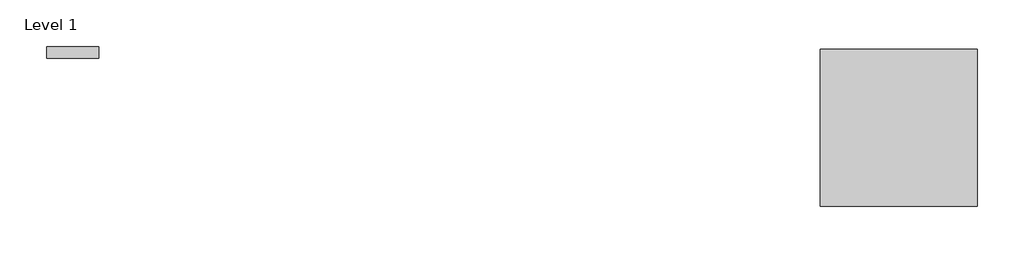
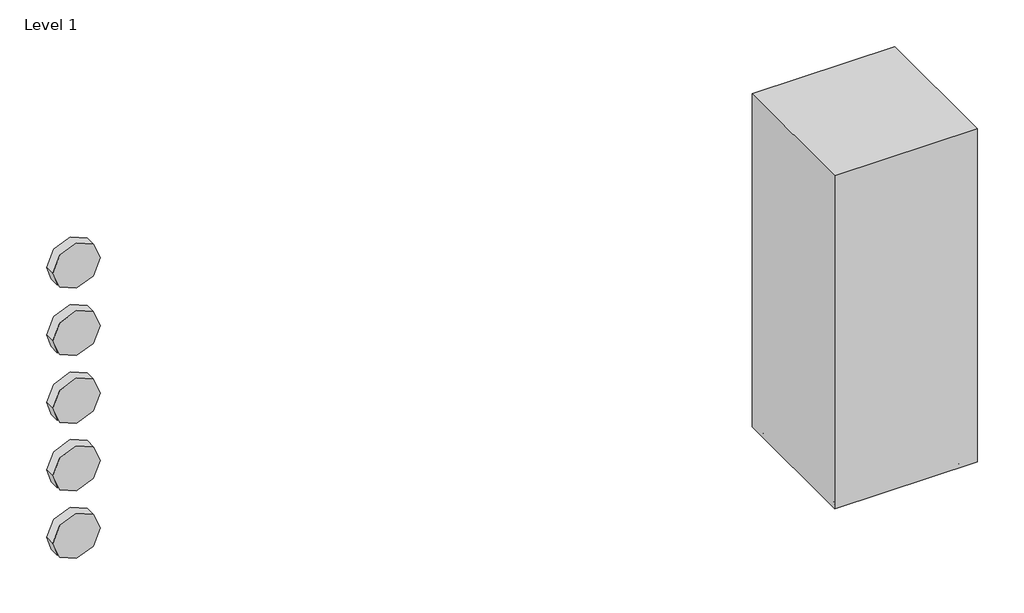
# One storey: 5 proxies, 1 furniture element.
"""IFC4 building model written with IfcOpenShell, lengths in millimetres."""

from ifc_helpers import new_model, si_unit, origin, place, context, project, spatial, transform, mapped, element, save
from components import materialmodel_materialmodel_aa49be07, furniture_3bb63632

model = new_model("IFC4")

# Units and contexts
model_context = context("Model", 3, world=origin())
ifc_project = project(units=[si_unit("LENGTHUNIT", "METRE", prefix="MILLI")], contexts=[model_context])

# Site, building, storey
site = spatial("IfcSite", under=ifc_project)
building = spatial("IfcBuilding", under=site)
storey = spatial("IfcBuildingStorey", under=building, Name="Level 1", Elevation=0.0)

# Proxies
placement = place(None, origin())
materialmodel_materialmodel_shape = materialmodel_materialmodel_aa49be07(model_context)
element("IfcBuildingElementProxy", 1, Name="MaterialModel : MaterialModel", ObjectType="MaterialModel : MaterialModel", at=placement, inside=storey, context=model_context, shape_type="MappedRepresentation", body=[
    mapped(materialmodel_materialmodel_shape, transform((-4168.3714612, 3483.5454579, 867.5), x_axis=(1.0, 0.0, 0.0), y_axis=(0.0, 1.0, 0.0), z_axis=(0.0, 0.0, 1.0))),
])
element("IfcBuildingElementProxy", 2, Name="MaterialModel : MaterialModel", ObjectType="MaterialModel : MaterialModel", at=placement, inside=storey, context=model_context, shape_type="MappedRepresentation", body=[
    mapped(materialmodel_materialmodel_shape, transform((-4168.3714612, 3483.5454579, 717.5), x_axis=(1.0, 0.0, 0.0), y_axis=(0.0, 1.0, 0.0), z_axis=(0.0, 0.0, 1.0))),
])
element("IfcBuildingElementProxy", 3, Name="MaterialModel : MaterialModel", ObjectType="MaterialModel : MaterialModel", at=placement, inside=storey, context=model_context, shape_type="MappedRepresentation", body=[
    mapped(materialmodel_materialmodel_shape, transform((-4168.3714612, 3483.5454579, 567.5), x_axis=(1.0, 0.0, 0.0), y_axis=(0.0, 1.0, 0.0), z_axis=(0.0, 0.0, 1.0))),
])
element("IfcBuildingElementProxy", 4, Name="MaterialModel : MaterialModel", ObjectType="MaterialModel : MaterialModel", at=placement, inside=storey, context=model_context, shape_type="MappedRepresentation", body=[
    mapped(materialmodel_materialmodel_shape, transform((-4168.3714612, 3483.5454579, 417.5), x_axis=(1.0, 0.0, 0.0), y_axis=(0.0, 1.0, 0.0), z_axis=(0.0, 0.0, 1.0))),
])
element("IfcBuildingElementProxy", 5, Name="MaterialModel : MaterialModel", ObjectType="MaterialModel : MaterialModel", at=placement, inside=storey, context=model_context, shape_type="MappedRepresentation", body=[
    mapped(materialmodel_materialmodel_shape, transform((-4168.3714612, 3483.5454579, 267.5), x_axis=(1.0, 0.0, 0.0), y_axis=(0.0, 1.0, 0.0), z_axis=(0.0, 0.0, 1.0))),
])

# Furniture
furniture_shape = furniture_3bb63632(model_context)
element("IfcFurniture", 6, ObjectType="Audo Copenhagen - Plinth - Pedestal : Audo Copenhagen - Plinth - Pedestal", at=placement, inside=storey, context=model_context, shape_type="MappedRepresentation", body=[
    mapped(furniture_shape, transform((-2590.4649448, 3339.4670228, 0.0), x_axis=(1.0, 0.0, 0.0), y_axis=(0.0, 1.0, 0.0), z_axis=(0.0, 0.0, 1.0))),
])

save(model, "model.ifc")
